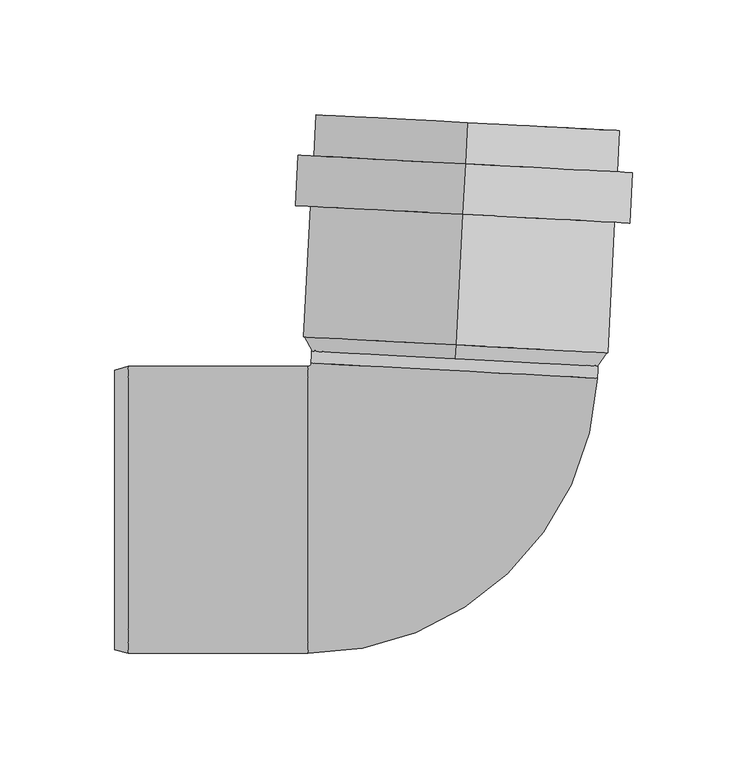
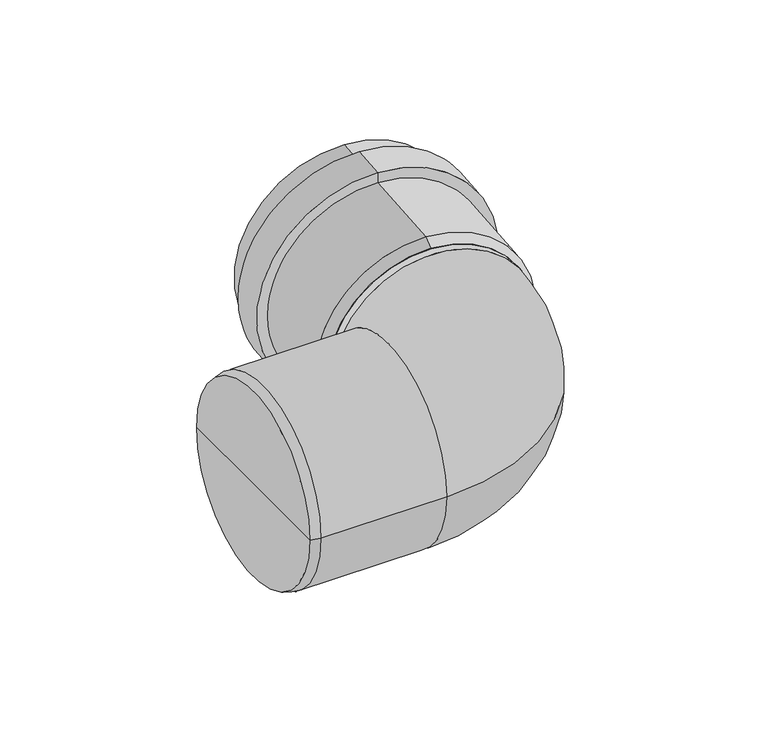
"""IFC4 building model written with IfcOpenShell, lengths in millimetres: pipe fitting geometry, OSMA_KG2000_PPKGB : Koleno 87°."""

from ifc_helpers import new_model, si_unit, point, frame, origin, place, context, project, spatial, polyline, circle_curve, ellipse_curve, trimmed, source, transform, mapped, element, save
from ifc_brep_helpers import plane_surface, cylinder_surface, revolved_surface, advanced_brep


def pipe_fitting_d3dbc187(model_context):
    return source(origin(), model_context, "Body", "AdvancedBrep", [
        advanced_brep(
        [(3.7681888, 71.9013265, 62.5), (3.7681888, 71.9013265, -62.5), (8.8447766, 168.7683914, -62.5), (8.8447766, 168.7683914, 62.5), (6.7513384, 128.82321, 66.4), (6.7513384, 128.82321, -66.4), (3.7681888, 71.9013265, -66.4), (3.7681888, 71.9013265, 66.4), (6.7513384, 128.82321, 73.0), (6.7513384, 128.82321, -73.0), (7.9027294, 150.7930597, 73.0), (7.9027294, 150.7930597, -73.0), (7.9027294, 150.7930597, 66.4), (7.9027294, 150.7930597, -66.4), (8.8447766, 168.7683914, 66.4), (8.8447766, 168.7683914, -66.4), (3.4541731, 65.9095493, 58.6), (3.4541731, 65.9095493, -58.6), (3.4541731, 65.9095493, 62.5), (3.4541731, 65.9095493, -62.5)],
        [
            (0, 1, circle_curve(frame((3.7681888, 71.9013265, 0.0), z_axis=(-0.052335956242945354, -0.9986295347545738, 0.0), x_axis=(0.0, 0.0, -1.0)), 62.5)),
            (1, 2),
            (2, 3, circle_curve(frame((8.8447766, 168.7683914, 0.0), z_axis=(0.052335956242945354, 0.9986295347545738, 0.0), x_axis=(0.0, 0.0, -1.0)), 62.5)),
            (3, 0),
            (1, 0, circle_curve(frame((3.7681888, 71.9013265, 0.0), z_axis=(-0.052335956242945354, -0.9986295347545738, 0.0), x_axis=(0.0, 0.0, -1.0)), 62.5)),
            (3, 2, circle_curve(frame((8.8447766, 168.7683914, 0.0), z_axis=(0.052335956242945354, 0.9986295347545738, 0.0), x_axis=(0.0, 0.0, -1.0)), 62.5)),
            (4, 5, circle_curve(frame((6.7513384, 128.82321, 0.0), z_axis=(-0.052335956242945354, -0.9986295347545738, 0.0), x_axis=(0.0, 0.0, -1.0)), 66.4)),
            (5, 6),
            (6, 7, circle_curve(frame((3.7681888, 71.9013265, 0.0), z_axis=(0.052335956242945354, 0.9986295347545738, 0.0), x_axis=(0.0, 0.0, -1.0)), 66.4)),
            (7, 4),
            (5, 4, circle_curve(frame((6.7513384, 128.82321, 0.0), z_axis=(-0.052335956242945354, -0.9986295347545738, 0.0), x_axis=(0.0, 0.0, -1.0)), 66.4)),
            (7, 6, circle_curve(frame((3.7681888, 71.9013265, 0.0), z_axis=(0.052335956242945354, 0.9986295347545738, 0.0), x_axis=(0.0, 0.0, -1.0)), 66.4)),
            (8, 9, circle_curve(frame((6.7513384, 128.82321, 0.0), z_axis=(-0.052335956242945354, -0.9986295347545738, 0.0), x_axis=(0.0, 0.0, -1.0)), 73.0)),
            (9, 5),
            (4, 8),
            (9, 8, circle_curve(frame((6.7513384, 128.82321, 0.0), z_axis=(-0.052335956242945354, -0.9986295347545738, 0.0), x_axis=(0.0, 0.0, -1.0)), 73.0)),
            (10, 11, circle_curve(frame((7.9027294, 150.7930597, 0.0), z_axis=(-0.052335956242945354, -0.9986295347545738, 0.0), x_axis=(0.0, 0.0, -1.0)), 73.0)),
            (11, 9),
            (8, 10),
            (11, 10, circle_curve(frame((7.9027294, 150.7930597, 0.0), z_axis=(-0.052335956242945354, -0.9986295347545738, 0.0), x_axis=(0.0, 0.0, -1.0)), 73.0)),
            (12, 13, circle_curve(frame((7.9027294, 150.7930597, 0.0), z_axis=(-0.052335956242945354, -0.9986295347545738, 0.0), x_axis=(0.0, 0.0, -1.0)), 66.4)),
            (13, 11),
            (10, 12),
            (13, 12, circle_curve(frame((7.9027294, 150.7930597, 0.0), z_axis=(-0.052335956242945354, -0.9986295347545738, 0.0), x_axis=(0.0, 0.0, -1.0)), 66.4)),
            (14, 15, circle_curve(frame((8.8447766, 168.7683914, 0.0), z_axis=(-0.052335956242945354, -0.9986295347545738, 0.0), x_axis=(0.0, 0.0, -1.0)), 66.4)),
            (15, 13),
            (12, 14),
            (15, 14, circle_curve(frame((8.8447766, 168.7683914, 0.0), z_axis=(-0.052335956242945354, -0.9986295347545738, 0.0), x_axis=(0.0, 0.0, -1.0)), 66.4)),
            (2, 15),
            (14, 3),
            (16, 17, circle_curve(frame((3.4541731, 65.9095493, 0.0), z_axis=(-0.052335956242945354, -0.9986295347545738, 0.0), x_axis=(0.0, 0.0, -1.0)), 58.6)),
            (17, 1),
            (0, 16),
            (17, 16, circle_curve(frame((3.4541731, 65.9095493, 0.0), z_axis=(-0.052335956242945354, -0.9986295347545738, 0.0), x_axis=(0.0, 0.0, -1.0)), 58.6)),
            (18, 19, circle_curve(frame((3.4541731, 65.9095493, 0.0), z_axis=(-0.052335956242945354, -0.9986295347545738, 0.0), x_axis=(0.0, 0.0, -1.0)), 62.5)),
            (19, 17),
            (16, 18),
            (19, 18, circle_curve(frame((3.4541731, 65.9095493, 0.0), z_axis=(-0.052335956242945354, -0.9986295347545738, 0.0), x_axis=(0.0, 0.0, -1.0)), 62.5)),
            (6, 19),
            (18, 7),
        ],
        [
            revolved_surface(polyline([(8.844776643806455, 168.7683913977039, -62.5), (3.7681888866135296, 71.90132649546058, -62.5)]), (148.5542626, 2834.5841895, 0.0), (0.052335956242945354, 0.9986295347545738, 0.0)),
            cylinder_surface(frame((148.5542626, 2834.5841895, 0.0), z_axis=(0.052335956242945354, 0.9986295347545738, 0.0), x_axis=(0.0, 0.0, -1.0)), 66.4),
            plane_surface(frame((6.7513384, 128.82321, 0.0), z_axis=(-0.052335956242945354, -0.9986295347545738, 0.0), x_axis=(0.0, 0.0, -1.0))),
            cylinder_surface(frame((148.5542626, 2834.5841895, 0.0), z_axis=(0.052335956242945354, 0.9986295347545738, 0.0), x_axis=(0.0, 0.0, -1.0)), 73.0),
            plane_surface(frame((7.9027294, 150.7930597, 0.0), z_axis=(0.052335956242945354, 0.9986295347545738, 0.0), x_axis=(0.0, 0.0, -1.0))),
            plane_surface(frame((8.8447766, 168.7683914, 0.0), z_axis=(0.052335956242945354, 0.9986295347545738, 0.0), x_axis=(0.0, 0.0, -1.0))),
            revolved_surface(polyline([(3.7681888, 71.9013265, -62.5), (3.4541731, 65.9095493, -58.6)]), (148.5542626, 2834.5841895, 0.0), (0.052335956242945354, 0.9986295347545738, 0.0)),
            plane_surface(frame((3.4541731, 65.9095493, 0.0), z_axis=(-0.052335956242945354, -0.9986295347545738, 0.0), x_axis=(0.0, 0.0, -1.0))),
            revolved_surface(polyline([(3.4541731, 65.9095493, -62.5), (3.7681888, 71.9013265, -66.4)]), (148.5542626, 2834.5841895, 0.0), (0.052335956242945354, 0.9986295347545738, 0.0)),
        ],
        [
            (0, [[1, 2, 3, 4]]),
            (0, [[5, -4, 6, -2]]),
            (1, [[7, 8, 9, 10]]),
            (1, [[11, -10, 12, -8]]),
            (2, [[13, 14, -7, 15]]),
            (2, [[16, -15, -11, -14]]),
            (3, [[17, 18, -13, 19]]),
            (3, [[20, -19, -16, -18]]),
            (4, [[21, 22, -17, 23]]),
            (4, [[24, -23, -20, -22]]),
            (1, [[25, 26, -21, 27]]),
            (1, [[28, -27, -24, -26]]),
            (5, [[-3, 29, -25, 30]]),
            (5, [[-6, -30, -28, -29]]),
            (6, [[31, 32, -1, 33]]),
            (6, [[34, -33, -5, -32]]),
            (7, [[35, 36, -31, 37]]),
            (7, [[38, -37, -34, -36]]),
            (8, [[-9, 39, -35, 40]]),
            (8, [[-12, -40, -38, -39]]),
        ],
    ),
        advanced_brep(
        [(-59.235788, 63.9214961, 0.0), (-60.7337323, 62.5, 0.0), (-60.7337323, -62.5, 0.0), (65.5929039, 57.3795015, 0.0), (3.178558, 60.6504988, 62.5), (3.178558, 60.6504988, -62.5), (-145.0, 0.0, 0.0), (-145.0, 60.8923048, 0.0), (-145.0, -60.8923048, 0.0), (-139.0, 62.5, 0.0), (-139.0, -62.5, 0.0), (66.1825348, 68.6303292, 0.0), (-58.6461571, 75.1723238, 0.0)],
        [
            (0, 1, circle_curve(frame((-60.7337323, 64.0, 0.0), z_axis=(0.0, 0.0, -1.0), x_axis=(0.0, -1.0, 0.0)), 1.5)),
            (1, 2, circle_curve(frame((-60.7337323, 0.0, 0.0), z_axis=(1.0, 0.0, 0.0), x_axis=(0.0, 1.0, 0.0)), 62.5)),
            (2, 3, circle_curve(frame((-60.7337323, 64.0, 0.0), z_axis=(0.0, 0.0, 1.0), x_axis=(0.0, -1.0, 0.0)), 126.5)),
            (3, 4, circle_curve(frame((3.178558, 60.6504988, 0.0), z_axis=(-0.05233595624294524, -0.9986295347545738, 0.0), x_axis=(-0.9986295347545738, 0.05233595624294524, 0.0)), 62.5)),
            (4, 0, circle_curve(frame((3.178558, 60.6504988, 0.0), z_axis=(-0.05233595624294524, -0.9986295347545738, 0.0), x_axis=(-0.9986295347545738, 0.05233595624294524, 0.0)), 62.5)),
            (0, 5, circle_curve(frame((3.178558, 60.6504988, 0.0), z_axis=(-0.05233595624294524, -0.9986295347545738, 0.0), x_axis=(-0.9986295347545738, 0.05233595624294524, 0.0)), 62.5)),
            (5, 3, circle_curve(frame((3.178558, 60.6504988, 0.0), z_axis=(-0.052335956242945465, -0.9986295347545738, 0.0), x_axis=(-0.9986295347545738, 0.052335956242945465, 0.0)), 62.5)),
            (2, 1, circle_curve(frame((-60.7337323, 0.0, 0.0), z_axis=(1.0, 0.0, 0.0), x_axis=(0.0, 1.0, 0.0)), 62.5)),
            (6, 7),
            (7, 8, circle_curve(frame((-145.0, 0.0, 0.0), z_axis=(-1.0, 0.0, 0.0), x_axis=(0.0, 1.0, 0.0)), 60.8923048)),
            (8, 6),
            (8, 7, circle_curve(frame((-145.0, 0.0, 0.0), z_axis=(-1.0, 0.0, 0.0), x_axis=(0.0, 1.0, 0.0)), 60.8923048)),
            (7, 9),
            (9, 10, circle_curve(frame((-139.0, 0.0, 0.0), z_axis=(-1.0, 0.0, 0.0), x_axis=(0.0, 1.0, 0.0)), 62.5)),
            (10, 8),
            (10, 9, circle_curve(frame((-139.0, 0.0, 0.0), z_axis=(-1.0, 0.0, 0.0), x_axis=(0.0, 1.0, 0.0)), 62.5)),
            (9, 1),
            (2, 10),
            (11, 12, circle_curve(frame((3.7681888, 71.9013265, 0.0), z_axis=(0.05233595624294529, 0.9986295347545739, 0.0), x_axis=(-0.9986295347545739, 0.05233595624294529, 0.0)), 62.5)),
            (12, 11, circle_curve(frame((3.7681888, 71.9013265, 0.0), z_axis=(0.05233595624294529, 0.9986295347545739, 0.0), x_axis=(-0.9986295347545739, 0.05233595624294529, 0.0)), 62.5)),
            (12, 0),
            (3, 11),
        ],
        [
            revolved_surface(trimmed(ellipse_curve(frame((-60.7337323, 0.0, 0.0), z_axis=(-1.0, 0.0, 0.0), x_axis=(0.0, 1.0, 0.0)), 62.5, 62.5), [point((-60.7337323, -62.5, 0.0))], [point((-60.7337323, 62.5, 0.0))], True, "CARTESIAN"), (-60.7337323, 64.0, 0.0), (0.0, 0.0, 1.0)),
            revolved_surface(trimmed(ellipse_curve(frame((-60.7337323, 0.0, 0.0), z_axis=(-1.0, 0.0, 0.0), x_axis=(0.0, 1.0, 0.0)), 62.5, 62.5), [point((-60.7337323, 62.5, 0.0))], [point((-60.7337323, -62.5, 0.0))], True, "CARTESIAN"), (-60.7337323, 64.0, 0.0), (0.0, 0.0, 1.0)),
            plane_surface(frame((-145.0, 0.0, 0.0), z_axis=(-1.0, 0.0, 0.0), x_axis=(0.0, 1.0, 0.0))),
            revolved_surface(polyline([(-139.0, 62.5, 0.0), (-145.0, 60.8923048, 0.0)]), (331.0587718, 0.0, 0.0), (-1.0, 0.0, 0.0)),
            cylinder_surface(frame((331.0587718, 0.0, 0.0), z_axis=(-1.0, 0.0, 0.0), x_axis=(0.0, 1.0, 0.0)), 62.5),
            plane_surface(frame((3.7681888, 71.9013265, 0.0), z_axis=(0.05233595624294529, 0.9986295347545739, 0.0), x_axis=(0.0, 0.0, 1.0))),
            cylinder_surface(frame((3.178558, 60.6504988, 0.0), z_axis=(-0.05233595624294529, -0.9986295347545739, 0.0), x_axis=(-0.9986295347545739, 0.05233595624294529, 0.0)), 62.5),
        ],
        [
            (0, [[1, 2, 3, 4, 5]]),
            (1, [[-1, 6, 7, -3, 8]]),
            (2, [[9, 10, 11]]),
            (2, [[-9, -11, 12]]),
            (3, [[-10, 13, 14, 15]]),
            (3, [[-12, -15, 16, -13]]),
            (4, [[-14, 17, -8, 18]]),
            (4, [[-16, -18, -2, -17]]),
            (5, [[19, 20]]),
            (6, [[-20, 21, -5, -4, 22]]),
            (6, [[-19, -22, -7, -6, -21]]),
        ],
    ),
    ])


if __name__ == "__main__":
    model = new_model("IFC4")
    model_context = context("Model", 3, world=origin())
    ifc_project = project(units=[si_unit("LENGTHUNIT", "METRE", prefix="MILLI")], contexts=[model_context])
    site = spatial("IfcSite", under=ifc_project)
    building = spatial("IfcBuilding", under=site)
    placement = place(None, origin())
    pipe_fitting_shape = pipe_fitting_d3dbc187(model_context)
    element("IfcPipeFitting", 1, ObjectType="OSMA_KG2000_PPKGB : Koleno 87°", at=placement, inside=building, context=model_context, shape_type="MappedRepresentation", body=[
        mapped(pipe_fitting_shape, transform((0.0, 0.0, 0.0), x_axis=(1.0, 0.0, 0.0), y_axis=(0.0, 1.0, 0.0), z_axis=(0.0, 0.0, 1.0))),
    ])
    save(model, "model.ifc")
